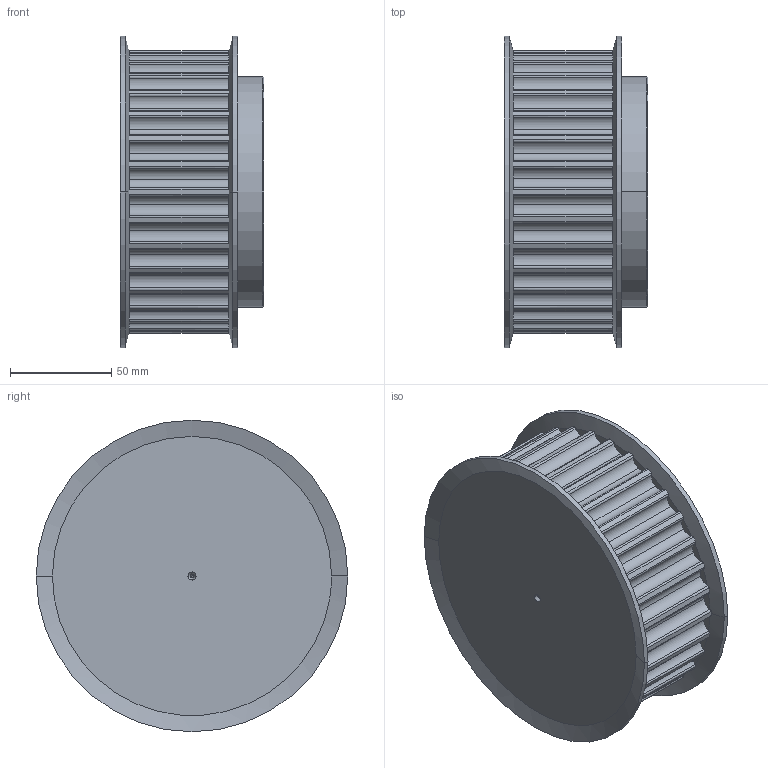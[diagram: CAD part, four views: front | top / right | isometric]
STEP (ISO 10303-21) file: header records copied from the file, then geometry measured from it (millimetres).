
FILE_DESCRIPTION(('STEP AP203'),'1');
FILE_NAME('32_-_14_m_40.stp','2021-07-12T13:12:51',('TraceParts'),('TraceParts S.A.'),'Spatial InterOp 3D',' ',' ');
FILE_SCHEMA(('CONFIG_CONTROL_DESIGN'));
Length unit declared in the file: millimetre
Products named in the file (1): 1
Bounding box: 71.14 x 154 x 154 mm (x, y, z)
Volume: 945101.1 mm3; surface area: 82201.6 mm2
Topology: 1 solids, 1 shells, 255 faces, 742 edges, 488 vertices
Faces by surface type: cylinder 170, plane 67, cone 18
Entity records: 9558 total; most frequent: CARTESIAN_POINT 3018, ORIENTED_EDGE 1476, DIRECTION 1288, EDGE_CURVE 738, AXIS2_PLACEMENT_3D 550, VERTEX_POINT 488, CIRCLE 294, EDGE_LOOP 258
